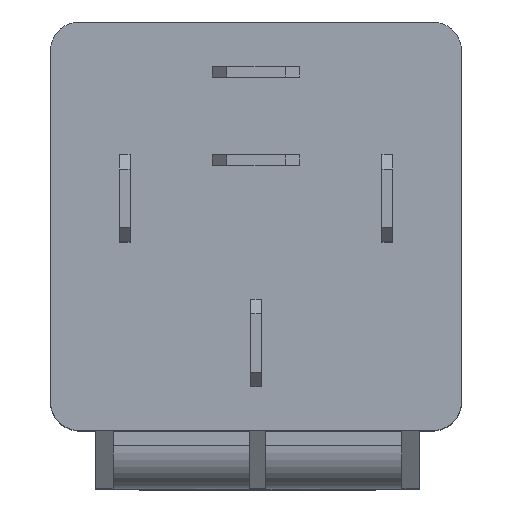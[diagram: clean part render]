
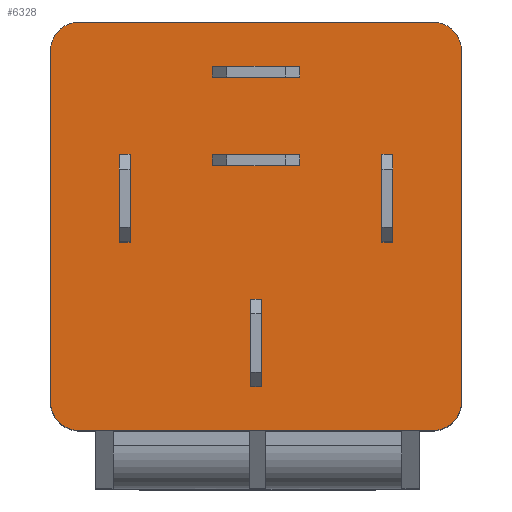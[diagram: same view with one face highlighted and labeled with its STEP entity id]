
A CAD part, top view. The second image highlights one B-rep face of the part: STEP entity #6328.
In plain terms, the highlighted planar face has unit normal (0, 0, 1).
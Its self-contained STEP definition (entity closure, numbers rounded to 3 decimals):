
#566=FACE_BOUND('',#1364,.T.);
#567=FACE_BOUND('',#1365,.T.);
#568=FACE_BOUND('',#1366,.T.);
#569=FACE_BOUND('',#1367,.T.);
#570=FACE_BOUND('',#1368,.T.);
#600=CIRCLE('',#6526,2.);
#607=CIRCLE('',#6535,2.);
#611=CIRCLE('',#6541,2.);
#612=CIRCLE('',#6545,2.);
#990=FACE_OUTER_BOUND('',#1363,.T.);
#1363=EDGE_LOOP('',(#5811,#5812,#5813,#5814,#5815,#5816,#5817,#5818));
#1364=EDGE_LOOP('',(#5819,#5820,#5821,#5822));
#1365=EDGE_LOOP('',(#5823,#5824,#5825,#5826));
#1366=EDGE_LOOP('',(#5827,#5828,#5829,#5830));
#1367=EDGE_LOOP('',(#5831,#5832,#5833,#5834));
#1368=EDGE_LOOP('',(#5835,#5836,#5837,#5838));
#1375=LINE('',#7564,#1921);
#1798=LINE('',#11896,#2344);
#1808=LINE('',#11917,#2354);
#1821=LINE('',#11944,#2367);
#1835=LINE('',#11973,#2381);
#1841=LINE('',#11985,#2387);
#1843=LINE('',#11988,#2389);
#1851=LINE('',#12006,#2397);
#1858=LINE('',#12020,#2404);
#1860=LINE('',#12023,#2406);
#1861=LINE('',#12025,#2407);
#1862=LINE('',#12028,#2408);
#1865=LINE('',#12033,#2411);
#1866=LINE('',#12035,#2412);
#1868=LINE('',#12039,#2414);
#1870=LINE('',#12043,#2416);
#1871=LINE('',#12045,#2417);
#1872=LINE('',#12047,#2418);
#1873=LINE('',#12049,#2419);
#1874=LINE('',#12051,#2420);
#1897=LINE('',#12161,#2443);
#1912=LINE('',#12201,#2458);
#1913=LINE('',#12203,#2459);
#1914=LINE('',#12205,#2460);
#1921=VECTOR('',#6580,10.);
#2344=VECTOR('',#7275,10.);
#2354=VECTOR('',#7291,10.);
#2367=VECTOR('',#7312,10.);
#2381=VECTOR('',#7336,10.);
#2387=VECTOR('',#7346,10.);
#2389=VECTOR('',#7350,10.);
#2397=VECTOR('',#7362,10.);
#2404=VECTOR('',#7375,10.);
#2406=VECTOR('',#7379,10.);
#2407=VECTOR('',#7382,10.);
#2408=VECTOR('',#7385,10.);
#2411=VECTOR('',#7390,10.);
#2412=VECTOR('',#7393,10.);
#2414=VECTOR('',#7397,10.);
#2416=VECTOR('',#7401,10.);
#2417=VECTOR('',#7404,10.);
#2418=VECTOR('',#7407,10.);
#2419=VECTOR('',#7410,10.);
#2420=VECTOR('',#7413,10.);
#2443=VECTOR('',#7490,10.);
#2458=VECTOR('',#7539,10.);
#2459=VECTOR('',#7542,10.);
#2460=VECTOR('',#7545,10.);
#2466=VERTEX_POINT('',#7561);
#2467=VERTEX_POINT('',#7563);
#2991=VERTEX_POINT('',#11893);
#2992=VERTEX_POINT('',#11895);
#2999=VERTEX_POINT('',#11914);
#3000=VERTEX_POINT('',#11916);
#3009=VERTEX_POINT('',#11941);
#3010=VERTEX_POINT('',#11943);
#3019=VERTEX_POINT('',#11970);
#3020=VERTEX_POINT('',#11972);
#3023=VERTEX_POINT('',#11982);
#3024=VERTEX_POINT('',#11984);
#3031=VERTEX_POINT('',#12003);
#3032=VERTEX_POINT('',#12005);
#3035=VERTEX_POINT('',#12017);
#3036=VERTEX_POINT('',#12019);
#3037=VERTEX_POINT('',#12027);
#3038=VERTEX_POINT('',#12031);
#3039=VERTEX_POINT('',#12037);
#3040=VERTEX_POINT('',#12041);
#3043=VERTEX_POINT('',#12069);
#3044=VERTEX_POINT('',#12070);
#3049=VERTEX_POINT('',#12105);
#3050=VERTEX_POINT('',#12106);
#3053=VERTEX_POINT('',#12127);
#3054=VERTEX_POINT('',#12128);
#3055=VERTEX_POINT('',#12137);
#3056=VERTEX_POINT('',#12138);
#3079=EDGE_CURVE('',#2467,#2466,#1375,.T.);
#3858=EDGE_CURVE('',#2992,#2991,#1798,.T.);
#3868=EDGE_CURVE('',#3000,#2999,#1808,.T.);
#3881=EDGE_CURVE('',#3010,#3009,#1821,.T.);
#3895=EDGE_CURVE('',#3020,#3019,#1835,.T.);
#3901=EDGE_CURVE('',#3024,#3023,#1841,.T.);
#3903=EDGE_CURVE('',#3023,#3020,#1843,.T.);
#3911=EDGE_CURVE('',#3032,#3031,#1851,.T.);
#3918=EDGE_CURVE('',#3036,#3035,#1858,.T.);
#3920=EDGE_CURVE('',#3035,#3000,#1860,.T.);
#3921=EDGE_CURVE('',#2999,#3036,#1861,.T.);
#3922=EDGE_CURVE('',#3037,#3010,#1862,.T.);
#3925=EDGE_CURVE('',#3009,#3038,#1865,.T.);
#3926=EDGE_CURVE('',#3038,#3037,#1866,.T.);
#3928=EDGE_CURVE('',#3031,#3039,#1868,.T.);
#3930=EDGE_CURVE('',#3039,#3040,#1870,.T.);
#3931=EDGE_CURVE('',#3040,#3032,#1871,.T.);
#3932=EDGE_CURVE('',#2991,#2467,#1872,.T.);
#3933=EDGE_CURVE('',#2466,#2992,#1873,.T.);
#3934=EDGE_CURVE('',#3019,#3024,#1874,.T.);
#3939=EDGE_CURVE('',#3043,#3044,#600,.T.);
#3949=EDGE_CURVE('',#3049,#3050,#607,.T.);
#3956=EDGE_CURVE('',#3053,#3054,#611,.T.);
#3961=EDGE_CURVE('',#3055,#3056,#612,.T.);
#3973=EDGE_CURVE('',#3043,#3054,#1897,.T.);
#3992=EDGE_CURVE('',#3053,#3050,#1912,.T.);
#3993=EDGE_CURVE('',#3055,#3044,#1913,.T.);
#3994=EDGE_CURVE('',#3049,#3056,#1914,.T.);
#5811=ORIENTED_EDGE('',*,*,#3939,.F.);
#5812=ORIENTED_EDGE('',*,*,#3973,.T.);
#5813=ORIENTED_EDGE('',*,*,#3956,.F.);
#5814=ORIENTED_EDGE('',*,*,#3992,.T.);
#5815=ORIENTED_EDGE('',*,*,#3949,.F.);
#5816=ORIENTED_EDGE('',*,*,#3994,.T.);
#5817=ORIENTED_EDGE('',*,*,#3961,.F.);
#5818=ORIENTED_EDGE('',*,*,#3993,.T.);
#5819=ORIENTED_EDGE('',*,*,#3918,.T.);
#5820=ORIENTED_EDGE('',*,*,#3920,.T.);
#5821=ORIENTED_EDGE('',*,*,#3868,.T.);
#5822=ORIENTED_EDGE('',*,*,#3921,.T.);
#5823=ORIENTED_EDGE('',*,*,#3922,.T.);
#5824=ORIENTED_EDGE('',*,*,#3881,.T.);
#5825=ORIENTED_EDGE('',*,*,#3925,.T.);
#5826=ORIENTED_EDGE('',*,*,#3926,.T.);
#5827=ORIENTED_EDGE('',*,*,#3911,.T.);
#5828=ORIENTED_EDGE('',*,*,#3928,.T.);
#5829=ORIENTED_EDGE('',*,*,#3930,.T.);
#5830=ORIENTED_EDGE('',*,*,#3931,.T.);
#5831=ORIENTED_EDGE('',*,*,#3858,.T.);
#5832=ORIENTED_EDGE('',*,*,#3932,.T.);
#5833=ORIENTED_EDGE('',*,*,#3079,.T.);
#5834=ORIENTED_EDGE('',*,*,#3933,.T.);
#5835=ORIENTED_EDGE('',*,*,#3903,.T.);
#5836=ORIENTED_EDGE('',*,*,#3895,.T.);
#5837=ORIENTED_EDGE('',*,*,#3934,.T.);
#5838=ORIENTED_EDGE('',*,*,#3901,.T.);
#5989=PLANE('',#6567);
#6328=ADVANCED_FACE('',(#990,#566,#567,#568,#569,#570),#5989,.T.);
#6526=AXIS2_PLACEMENT_3D('',#12071,#7425,#7426);
#6535=AXIS2_PLACEMENT_3D('',#12107,#7446,#7447);
#6541=AXIS2_PLACEMENT_3D('',#12129,#7461,#7462);
#6545=AXIS2_PLACEMENT_3D('',#12139,#7473,#7474);
#6567=AXIS2_PLACEMENT_3D('',#12206,#7546,#7547);
#6580=DIRECTION('',(0.,-1.,0.));
#7275=DIRECTION('',(0.,1.,0.));
#7291=DIRECTION('',(0.,1.,0.));
#7312=DIRECTION('',(1.,0.,0.));
#7336=DIRECTION('',(1.,0.,0.));
#7346=DIRECTION('',(-1.,0.,0.));
#7350=DIRECTION('',(0.,1.,0.));
#7362=DIRECTION('',(0.,1.,0.));
#7375=DIRECTION('',(0.,-1.,0.));
#7379=DIRECTION('',(-1.,0.,0.));
#7382=DIRECTION('',(1.,0.,0.));
#7385=DIRECTION('',(0.,1.,0.));
#7390=DIRECTION('',(0.,-1.,0.));
#7393=DIRECTION('',(-1.,0.,0.));
#7397=DIRECTION('',(1.,0.,0.));
#7401=DIRECTION('',(0.,-1.,0.));
#7404=DIRECTION('',(-1.,0.,0.));
#7407=DIRECTION('',(1.,0.,0.));
#7410=DIRECTION('',(-1.,0.,0.));
#7413=DIRECTION('',(0.,-1.,0.));
#7425=DIRECTION('center_axis',(0.,0.,-1.));
#7426=DIRECTION('ref_axis',(-0.707,-0.707,0.));
#7446=DIRECTION('center_axis',(0.,0.,-1.));
#7447=DIRECTION('ref_axis',(0.707,0.707,0.));
#7461=DIRECTION('center_axis',(0.,0.,-1.));
#7462=DIRECTION('ref_axis',(0.707,-0.707,0.));
#7473=DIRECTION('center_axis',(0.,0.,-1.));
#7474=DIRECTION('ref_axis',(-0.707,0.707,0.));
#7490=DIRECTION('',(1.,0.,0.));
#7539=DIRECTION('',(0.,1.,0.));
#7542=DIRECTION('',(0.,-1.,0.));
#7545=DIRECTION('',(-1.,0.,0.));
#7546=DIRECTION('center_axis',(0.,0.,1.));
#7547=DIRECTION('ref_axis',(1.,0.,0.));
#7561=CARTESIAN_POINT('',(0.376,-11.008,26.9));
#7563=CARTESIAN_POINT('',(0.376,-5.008,26.9));
#7564=CARTESIAN_POINT('',(0.376,-5.504,26.9));
#11893=CARTESIAN_POINT('',(-0.374,-5.008,26.9));
#11895=CARTESIAN_POINT('',(-0.374,-11.008,26.9));
#11896=CARTESIAN_POINT('',(-0.374,-2.504,26.9));
#11914=CARTESIAN_POINT('',(8.626,4.906,26.9));
#11916=CARTESIAN_POINT('',(8.626,-1.094,26.9));
#11917=CARTESIAN_POINT('',(8.626,2.453,26.9));
#11941=CARTESIAN_POINT('',(3.001,10.953,26.9));
#11943=CARTESIAN_POINT('',(-2.999,10.953,26.9));
#11944=CARTESIAN_POINT('',(1.5,10.953,26.9));
#11970=CARTESIAN_POINT('',(3.001,4.887,26.9));
#11972=CARTESIAN_POINT('',(-2.999,4.887,26.9));
#11973=CARTESIAN_POINT('',(1.5,4.887,26.9));
#11982=CARTESIAN_POINT('',(-2.999,4.137,26.9));
#11984=CARTESIAN_POINT('',(3.001,4.137,26.9));
#11985=CARTESIAN_POINT('',(-1.5,4.137,26.9));
#11988=CARTESIAN_POINT('',(-2.999,2.444,26.9));
#12003=CARTESIAN_POINT('',(-9.374,4.906,26.9));
#12005=CARTESIAN_POINT('',(-9.374,-1.094,26.9));
#12006=CARTESIAN_POINT('',(-9.374,2.453,26.9));
#12017=CARTESIAN_POINT('',(9.376,-1.094,26.9));
#12019=CARTESIAN_POINT('',(9.376,4.906,26.9));
#12020=CARTESIAN_POINT('',(9.376,-0.547,26.9));
#12023=CARTESIAN_POINT('',(4.313,-1.094,26.9));
#12025=CARTESIAN_POINT('',(4.688,4.906,26.9));
#12027=CARTESIAN_POINT('',(-2.999,10.203,26.9));
#12028=CARTESIAN_POINT('',(-2.999,5.476,26.9));
#12031=CARTESIAN_POINT('',(3.001,10.203,26.9));
#12033=CARTESIAN_POINT('',(3.001,5.101,26.9));
#12035=CARTESIAN_POINT('',(-1.5,10.203,26.9));
#12037=CARTESIAN_POINT('',(-8.624,4.906,26.9));
#12039=CARTESIAN_POINT('',(-4.312,4.906,26.9));
#12041=CARTESIAN_POINT('',(-8.624,-1.094,26.9));
#12043=CARTESIAN_POINT('',(-8.624,-0.547,26.9));
#12045=CARTESIAN_POINT('',(-4.687,-1.094,26.9));
#12047=CARTESIAN_POINT('',(0.188,-5.008,26.9));
#12049=CARTESIAN_POINT('',(-0.187,-11.008,26.9));
#12051=CARTESIAN_POINT('',(3.001,2.069,26.9));
#12069=CARTESIAN_POINT('',(-12.1,-14.,26.9));
#12070=CARTESIAN_POINT('',(-14.1,-12.,26.9));
#12071=CARTESIAN_POINT('Origin',(-12.1,-12.,26.9));
#12105=CARTESIAN_POINT('',(12.1,14.,26.9));
#12106=CARTESIAN_POINT('',(14.1,12.,26.9));
#12107=CARTESIAN_POINT('Origin',(12.1,12.,26.9));
#12127=CARTESIAN_POINT('',(14.1,-12.,26.9));
#12128=CARTESIAN_POINT('',(12.1,-14.,26.9));
#12129=CARTESIAN_POINT('Origin',(12.1,-12.,26.9));
#12137=CARTESIAN_POINT('',(-14.1,12.,26.9));
#12138=CARTESIAN_POINT('',(-12.1,14.,26.9));
#12139=CARTESIAN_POINT('Origin',(-12.1,12.,26.9));
#12161=CARTESIAN_POINT('',(14.1,-14.,26.9));
#12201=CARTESIAN_POINT('',(14.1,14.,26.9));
#12203=CARTESIAN_POINT('',(-14.1,-14.,26.9));
#12205=CARTESIAN_POINT('',(-14.1,14.,26.9));
#12206=CARTESIAN_POINT('Origin',(0.,0.,26.9));
